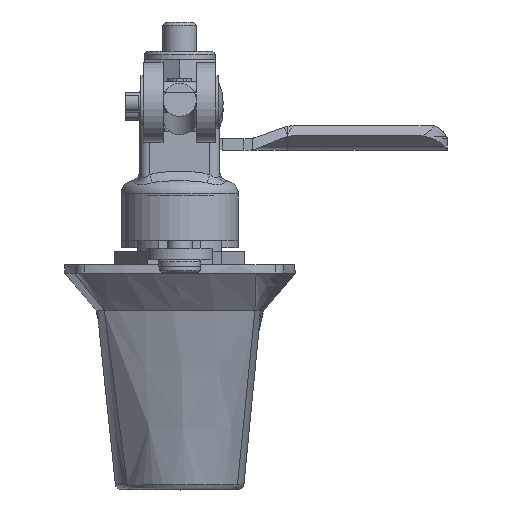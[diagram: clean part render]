
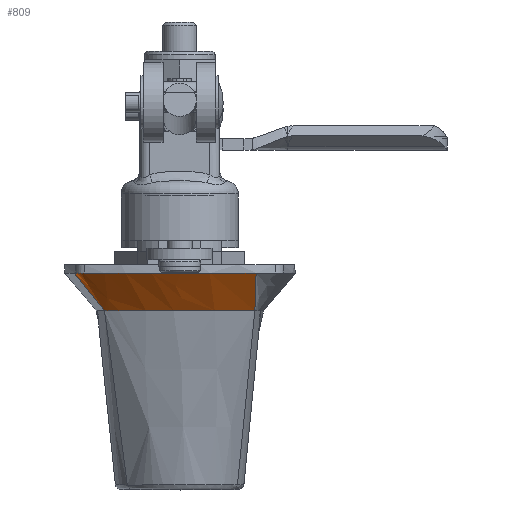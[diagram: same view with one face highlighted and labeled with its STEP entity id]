
A CAD part, top view. The second image highlights one B-rep face of the part: STEP entity #809.
In plain terms, the highlighted free-form (B-spline) face has degree [3, 3] with [10, 4] control points.
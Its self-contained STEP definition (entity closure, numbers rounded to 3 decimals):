
#809 = ADVANCED_FACE( '', ( #1440 ), #1441, .T. );
#1440 = FACE_OUTER_BOUND( '', #3244, .T. );
#1441 = B_SPLINE_SURFACE_WITH_KNOTS( '', 3, 3, ( ( #3245, #3246, #3247, #3248 ), ( #3249, #3250, #3251, #3252 ), ( #3253, #3254, #3255, #3256 ), ( #3257, #3258, #3259, #3260 ), ( #3261, #3262, #3263, #3264 ), ( #3265, #3266, #3267, #3268 ), ( #3269, #3270, #3271, #3272 ), ( #3273, #3274, #3275, #3276 ), ( #3277, #3278, #3279, #3280 ), ( #3281, #3282, #3283, #3284 ) ), .UNSPECIFIED., .F., .F., .F., ( 4, 2, 2, 2, 4 ), ( 4, 4 ), ( 0., 0.45, 0.901, 0.967, 1. ), ( 0., 1. ), .UNSPECIFIED. );
#3244 = EDGE_LOOP( '', ( #9058, #9059, #9060, #9061, #9062, #9063, #9064, #9065 ) );
#3245 = CARTESIAN_POINT( '', ( 31.702, 18.251, -2.032 ) );
#3246 = CARTESIAN_POINT( '', ( 29.074, 18.155, -5.038 ) );
#3247 = CARTESIAN_POINT( '', ( 26.447, 18.06, -8.043 ) );
#3248 = CARTESIAN_POINT( '', ( 23.819, 17.965, -11.049 ) );
#3249 = CARTESIAN_POINT( '', ( 33.64, 11.556, -2.032 ) );
#3250 = CARTESIAN_POINT( '', ( 30.932, 11.955, -5.038 ) );
#3251 = CARTESIAN_POINT( '', ( 28.224, 12.353, -8.043 ) );
#3252 = CARTESIAN_POINT( '', ( 25.517, 12.751, -11.049 ) );
#3253 = CARTESIAN_POINT( '', ( 34.502, 4.553, -2.032 ) );
#3254 = CARTESIAN_POINT( '', ( 31.824, 5.467, -5.038 ) );
#3255 = CARTESIAN_POINT( '', ( 29.147, 6.381, -8.043 ) );
#3256 = CARTESIAN_POINT( '', ( 26.47, 7.295, -11.049 ) );
#3257 = CARTESIAN_POINT( '', ( 33.99, -9.374, -2.032 ) );
#3258 = CARTESIAN_POINT( '', ( 31.598, -7.471, -5.038 ) );
#3259 = CARTESIAN_POINT( '', ( 29.205, -5.569, -8.043 ) );
#3260 = CARTESIAN_POINT( '', ( 26.813, -3.666, -11.049 ) );
#3261 = CARTESIAN_POINT( '', ( 32.616, -16.295, -2.032 ) );
#3262 = CARTESIAN_POINT( '', ( 30.478, -13.921, -5.038 ) );
#3263 = CARTESIAN_POINT( '', ( 28.34, -11.546, -8.043 ) );
#3264 = CARTESIAN_POINT( '', ( 26.203, -9.171, -11.049 ) );
#3265 = CARTESIAN_POINT( '', ( 29.837, -23.79, -2.032 ) );
#3266 = CARTESIAN_POINT( '', ( 28.102, -20.947, -5.038 ) );
#3267 = CARTESIAN_POINT( '', ( 26.368, -18.104, -8.043 ) );
#3268 = CARTESIAN_POINT( '', ( 24.633, -15.261, -11.049 ) );
#3269 = CARTESIAN_POINT( '', ( 28.987, -24.552, -2.032 ) );
#3270 = CARTESIAN_POINT( '', ( 27.463, -21.714, -5.038 ) );
#3271 = CARTESIAN_POINT( '', ( 25.939, -18.876, -8.043 ) );
#3272 = CARTESIAN_POINT( '', ( 24.416, -16.038, -11.049 ) );
#3273 = CARTESIAN_POINT( '', ( 27.496, -24.929, -2.032 ) );
#3274 = CARTESIAN_POINT( '', ( 26.353, -22.351, -5.038 ) );
#3275 = CARTESIAN_POINT( '', ( 25.209, -19.774, -8.043 ) );
#3276 = CARTESIAN_POINT( '', ( 24.065, -17.196, -11.049 ) );
#3277 = CARTESIAN_POINT( '', ( 26.998, -25.05, -2.032 ) );
#3278 = CARTESIAN_POINT( '', ( 25.98, -22.561, -5.038 ) );
#3279 = CARTESIAN_POINT( '', ( 24.962, -20.071, -8.043 ) );
#3280 = CARTESIAN_POINT( '', ( 23.944, -17.581, -11.049 ) );
#3281 = CARTESIAN_POINT( '', ( 26.499, -25.168, -2.032 ) );
#3282 = CARTESIAN_POINT( '', ( 25.605, -22.767, -5.038 ) );
#3283 = CARTESIAN_POINT( '', ( 24.712, -20.366, -8.043 ) );
#3284 = CARTESIAN_POINT( '', ( 23.819, -17.965, -11.049 ) );
#9058 = ORIENTED_EDGE( '', *, *, #11156, .T. );
#9059 = ORIENTED_EDGE( '', *, *, #11149, .T. );
#9060 = ORIENTED_EDGE( '', *, *, #11157, .T. );
#9061 = ORIENTED_EDGE( '', *, *, #11158, .T. );
#9062 = ORIENTED_EDGE( '', *, *, #11159, .F. );
#9063 = ORIENTED_EDGE( '', *, *, #11160, .F. );
#9064 = ORIENTED_EDGE( '', *, *, #11161, .F. );
#9065 = ORIENTED_EDGE( '', *, *, #11162, .F. );
#11149 = EDGE_CURVE( '', #13184, #13182, #13185, .T. );
#11156 = EDGE_CURVE( '', #13194, #13184, #13195, .T. );
#11157 = EDGE_CURVE( '', #13182, #13196, #13197, .T. );
#11158 = EDGE_CURVE( '', #13196, #13198, #13199, .T. );
#11159 = EDGE_CURVE( '', #13200, #13198, #13201, .T. );
#11160 = EDGE_CURVE( '', #13202, #13200, #13203, .T. );
#11161 = EDGE_CURVE( '', #13204, #13202, #13205, .T. );
#11162 = EDGE_CURVE( '', #13194, #13204, #13206, .T. );
#13182 = VERTEX_POINT( '', #16233 );
#13184 = VERTEX_POINT( '', #16236 );
#13185 = B_SPLINE_CURVE_WITH_KNOTS( '', 3, ( #16237, #16238, #16239, #16240 ), .UNSPECIFIED., .F., .F., ( 4, 4 ), ( 0., 1. ), .UNSPECIFIED. );
#13194 = VERTEX_POINT( '', #16296 );
#13195 = B_SPLINE_CURVE_WITH_KNOTS( '', 3, ( #16297, #16298, #16299, #16300, #16301, #16302 ), .UNSPECIFIED., .F., .F., ( 4, 2, 4 ), ( 0., 0.5, 1. ), .UNSPECIFIED. );
#13196 = VERTEX_POINT( '', #16303 );
#13197 = B_SPLINE_CURVE_WITH_KNOTS( '', 3, ( #16304, #16305, #16306, #16307 ), .UNSPECIFIED., .F., .F., ( 4, 4 ), ( 0., 1. ), .UNSPECIFIED. );
#13198 = VERTEX_POINT( '', #16308 );
#13199 = B_SPLINE_CURVE_WITH_KNOTS( '', 3, ( #16309, #16310, #16311, #16312 ), .UNSPECIFIED., .F., .F., ( 4, 4 ), ( 0., 1. ), .UNSPECIFIED. );
#13200 = VERTEX_POINT( '', #16313 );
#13201 = B_SPLINE_CURVE_WITH_KNOTS( '', 3, ( #16314, #16315, #16316, #16317 ), .UNSPECIFIED., .F., .F., ( 4, 4 ), ( 0.967, 1. ), .UNSPECIFIED. );
#13202 = VERTEX_POINT( '', #16318 );
#13203 = B_SPLINE_CURVE_WITH_KNOTS( '', 3, ( #16319, #16320, #16321, #16322 ), .UNSPECIFIED., .F., .F., ( 4, 4 ), ( 0.901, 0.967 ), .UNSPECIFIED. );
#13204 = VERTEX_POINT( '', #16323 );
#13205 = B_SPLINE_CURVE_WITH_KNOTS( '', 3, ( #16324, #16325, #16326, #16327, #16328, #16329, #16330, #16331, #16332, #16333 ), .UNSPECIFIED., .F., .F., ( 4, 2, 2, 2, 4 ), ( 0., 0.25, 0.5, 0.75, 0.901 ), .UNSPECIFIED. );
#13206 = B_SPLINE_CURVE_WITH_KNOTS( '', 3, ( #16334, #16335, #16336, #16337 ), .UNSPECIFIED., .F., .F., ( 4, 4 ), ( 0., 1. ), .UNSPECIFIED. );
#16233 = CARTESIAN_POINT( '', ( 27.994, -24.803, -2.032 ) );
#16236 = CARTESIAN_POINT( '', ( 30.193, -22.829, -2.032 ) );
#16237 = CARTESIAN_POINT( '', ( 30.193, -22.829, -2.032 ) );
#16238 = CARTESIAN_POINT( '', ( 29.837, -23.79, -2.032 ) );
#16239 = CARTESIAN_POINT( '', ( 28.987, -24.552, -2.032 ) );
#16240 = CARTESIAN_POINT( '', ( 27.994, -24.803, -2.032 ) );
#16296 = CARTESIAN_POINT( '', ( 31.702, 18.251, -2.032 ) );
#16297 = CARTESIAN_POINT( '', ( 31.702, 18.251, -2.032 ) );
#16298 = CARTESIAN_POINT( '', ( 33.64, 11.556, -2.032 ) );
#16299 = CARTESIAN_POINT( '', ( 34.502, 4.553, -2.032 ) );
#16300 = CARTESIAN_POINT( '', ( 33.99, -9.374, -2.032 ) );
#16301 = CARTESIAN_POINT( '', ( 32.616, -16.295, -2.032 ) );
#16302 = CARTESIAN_POINT( '', ( 30.193, -22.829, -2.032 ) );
#16303 = CARTESIAN_POINT( '', ( 26.499, -25.168, -2.032 ) );
#16304 = CARTESIAN_POINT( '', ( 27.994, -24.803, -2.032 ) );
#16305 = CARTESIAN_POINT( '', ( 27.496, -24.929, -2.032 ) );
#16306 = CARTESIAN_POINT( '', ( 26.998, -25.05, -2.032 ) );
#16307 = CARTESIAN_POINT( '', ( 26.499, -25.168, -2.032 ) );
#16308 = CARTESIAN_POINT( '', ( 23.819, -17.965, -11.049 ) );
#16309 = CARTESIAN_POINT( '', ( 26.499, -25.168, -2.032 ) );
#16310 = CARTESIAN_POINT( '', ( 25.605, -22.767, -5.038 ) );
#16311 = CARTESIAN_POINT( '', ( 24.712, -20.366, -8.043 ) );
#16312 = CARTESIAN_POINT( '', ( 23.819, -17.965, -11.049 ) );
#16313 = CARTESIAN_POINT( '', ( 24.182, -16.81, -11.049 ) );
#16314 = CARTESIAN_POINT( '', ( 24.182, -16.81, -11.049 ) );
#16315 = CARTESIAN_POINT( '', ( 24.065, -17.196, -11.049 ) );
#16316 = CARTESIAN_POINT( '', ( 23.944, -17.581, -11.049 ) );
#16317 = CARTESIAN_POINT( '', ( 23.819, -17.965, -11.049 ) );
#16318 = CARTESIAN_POINT( '', ( 24.835, -14.481, -11.049 ) );
#16319 = CARTESIAN_POINT( '', ( 24.834, -14.481, -11.049 ) );
#16320 = CARTESIAN_POINT( '', ( 24.633, -15.261, -11.049 ) );
#16321 = CARTESIAN_POINT( '', ( 24.416, -16.038, -11.049 ) );
#16322 = CARTESIAN_POINT( '', ( 24.182, -16.81, -11.049 ) );
#16323 = CARTESIAN_POINT( '', ( 23.819, 17.965, -11.049 ) );
#16324 = CARTESIAN_POINT( '', ( 23.819, 17.965, -11.049 ) );
#16325 = CARTESIAN_POINT( '', ( 24.762, 15.07, -11.049 ) );
#16326 = CARTESIAN_POINT( '', ( 25.476, 12.101, -11.049 ) );
#16327 = CARTESIAN_POINT( '', ( 26.43, 6.088, -11.049 ) );
#16328 = CARTESIAN_POINT( '', ( 26.67, 3.044, -11.049 ) );
#16329 = CARTESIAN_POINT( '', ( 26.67, -3.044, -11.049 ) );
#16330 = CARTESIAN_POINT( '', ( 26.43, -6.088, -11.049 ) );
#16331 = CARTESIAN_POINT( '', ( 25.665, -10.906, -11.049 ) );
#16332 = CARTESIAN_POINT( '', ( 25.292, -12.704, -11.049 ) );
#16333 = CARTESIAN_POINT( '', ( 24.834, -14.481, -11.049 ) );
#16334 = CARTESIAN_POINT( '', ( 31.702, 18.251, -2.032 ) );
#16335 = CARTESIAN_POINT( '', ( 29.074, 18.155, -5.038 ) );
#16336 = CARTESIAN_POINT( '', ( 26.447, 18.06, -8.043 ) );
#16337 = CARTESIAN_POINT( '', ( 23.819, 17.965, -11.049 ) );
